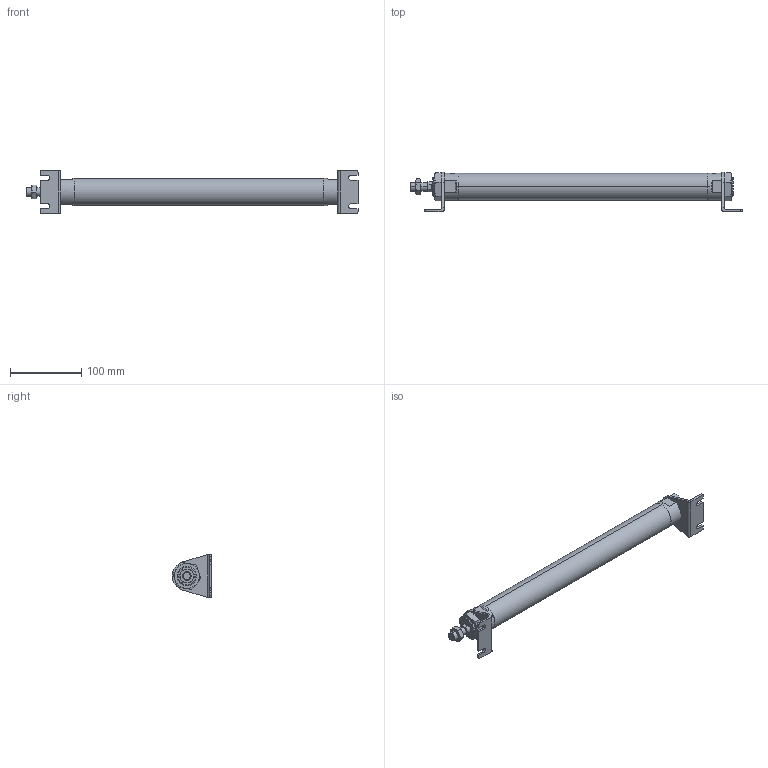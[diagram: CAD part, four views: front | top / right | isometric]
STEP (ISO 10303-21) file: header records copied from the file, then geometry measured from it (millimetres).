
FILE_DESCRIPTION (( 'STEP AP203' ), '1' );
FILE_NAME ('J#2-32-300-L.STEP', '2016-03-10T01:03:19', ( '' ), ( '' ), 'SwSTEP 2.0', 'SolidWorks 2014', '' );
FILE_SCHEMA (( 'CONFIG_CONTROL_DESIGN' ));
Length unit declared in the file: millimetre
Products named in the file (5): J#2-32-300-L; J#2-32-300; J#2-32-L
Assembly tree (6 placements, depth 2):
  J#2-32-300-L
    J#2-32-300
    (unnamed)
    (unnamed)  x2
    J#2-32-L  x2
Bounding box: 465.2 x 55.5 x 60 mm (x, y, z)
Volume: 484587.8 mm3; surface area: 75726.1 mm2
Topology: 6 solids, 6 shells, 170 faces, 404 edges, 249 vertices
Faces by surface type: plane 71, cylinder 48, torus 36, cone 15
Entity records: 4479 total; most frequent: CARTESIAN_POINT 1189, DIRECTION 578, ORIENTED_EDGE 558, EDGE_CURVE 279, AXIS2_PLACEMENT_3D 232, VERTEX_POINT 173, EDGE_LOOP 134, ADVANCED_FACE 121
